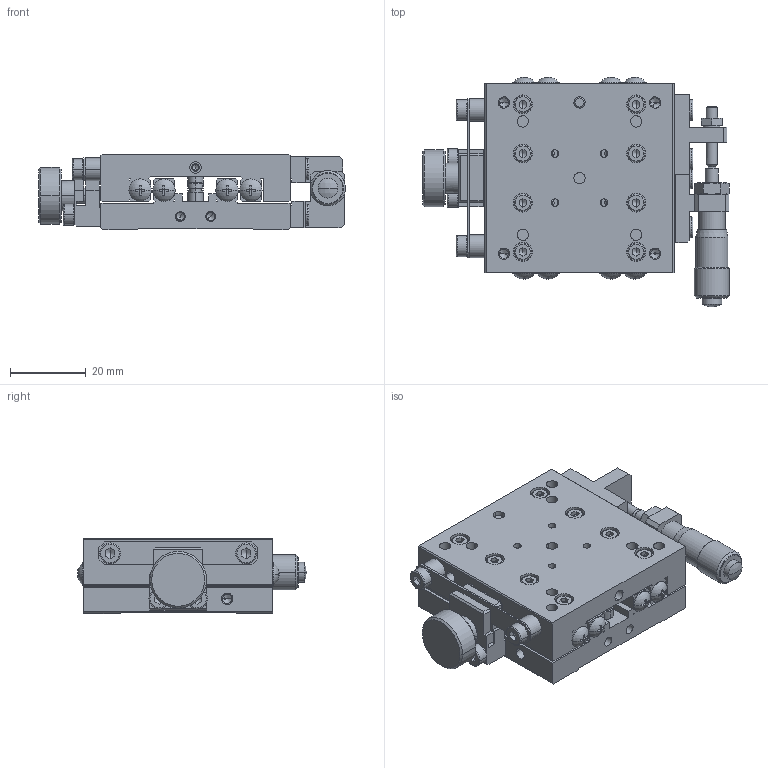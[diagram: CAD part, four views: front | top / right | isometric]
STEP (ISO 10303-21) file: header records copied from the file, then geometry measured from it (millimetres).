
FILE_DESCRIPTION (( 'STEP AP214' ), '1' );
FILE_NAME ('XM05A-S1-R.STEP', '2007-08-07T00:15:58', ( ' ' ), ( ' ' ), 'SwSTEP 2.0', 'SolidWorks 2006052', '' );
FILE_SCHEMA (( 'AUTOMOTIVE_DESIGN' ));
Length unit declared in the file: millimetre
Products named in the file (3): 001010-1023(3D)-9; 001010-1011(3D)-9; XM05A-S1-R
Assembly tree (2 placements, depth 2):
  XM05A-S1-R
    001010-1023(3D)-9
    001010-1011(3D)-9
Bounding box: 81.15 x 60.68 x 20 mm (x, y, z)
Volume: 48690.4 mm3; surface area: 30129.7 mm2
Topology: 2 solids, 49 shells, 1718 faces, 3919 edges, 2323 vertices
Faces by surface type: plane 813, cylinder 504, cone 285, torus 96, sphere 20
Entity records: 47897 total; most frequent: DIRECTION 8805, CARTESIAN_POINT 8602, ORIENTED_EDGE 7626, EDGE_CURVE 3813, AXIS2_PLACEMENT_3D 3398, VERTEX_POINT 2323, VECTOR 2009, LINE 2009
